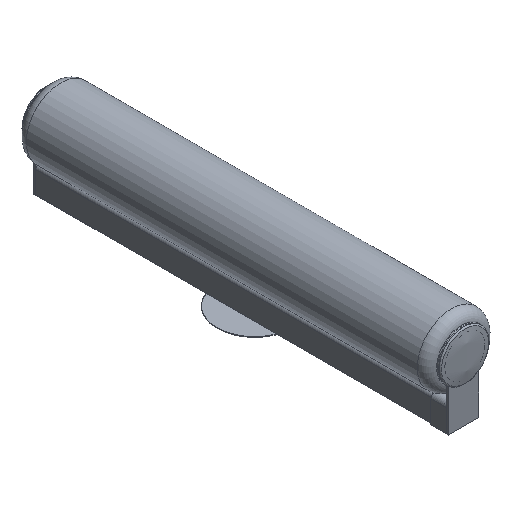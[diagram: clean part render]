
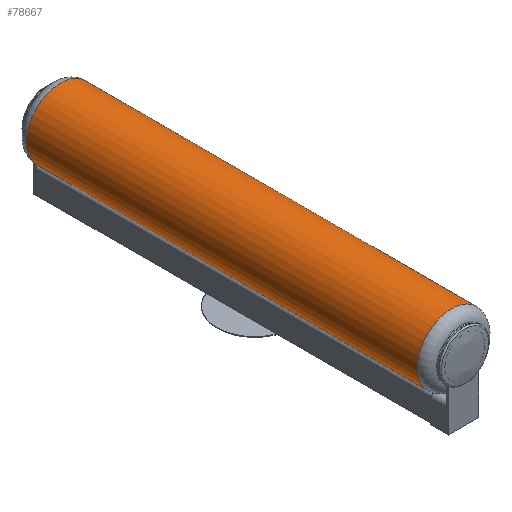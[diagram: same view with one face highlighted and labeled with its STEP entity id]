
A CAD part, isometric view. The second image highlights one B-rep face of the part: STEP entity #78667.
In plain terms, the highlighted cylindrical face has radius 50 mm (diameter 100 mm), a full revolution.
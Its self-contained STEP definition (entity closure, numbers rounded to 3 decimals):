
#13074=FACE_OUTER_BOUND('',#17448,.T.);
#17448=EDGE_LOOP('',(#73964,#73965,#73966,#73967,#73968,#73969));
#24920=LINE('',#138758,#32390);
#32390=VECTOR('',#103016,50.);
#34100=CIRCLE('',#84854,50.);
#34101=CIRCLE('',#84855,50.);
#34106=CIRCLE('',#84861,50.);
#34107=CIRCLE('',#84862,50.);
#41281=VERTEX_POINT('',#138721);
#41282=VERTEX_POINT('',#138722);
#41285=VERTEX_POINT('',#138731);
#41286=VERTEX_POINT('',#138733);
#52168=EDGE_CURVE('',#41281,#41282,#34100,.T.);
#52169=EDGE_CURVE('',#41282,#41281,#34101,.T.);
#52174=EDGE_CURVE('',#41285,#41286,#34106,.T.);
#52175=EDGE_CURVE('',#41286,#41285,#34107,.T.);
#52185=EDGE_CURVE('',#41286,#41281,#24920,.T.);
#73964=ORIENTED_EDGE('',*,*,#52175,.F.);
#73965=ORIENTED_EDGE('',*,*,#52185,.T.);
#73966=ORIENTED_EDGE('',*,*,#52168,.T.);
#73967=ORIENTED_EDGE('',*,*,#52169,.T.);
#73968=ORIENTED_EDGE('',*,*,#52185,.F.);
#73969=ORIENTED_EDGE('',*,*,#52174,.F.);
#74665=CYLINDRICAL_SURFACE('',#84876,50.);
#78667=ADVANCED_FACE('',(#13074),#74665,.T.);
#84854=AXIS2_PLACEMENT_3D('',#138723,#102968,#102969);
#84855=AXIS2_PLACEMENT_3D('',#138724,#102970,#102971);
#84861=AXIS2_PLACEMENT_3D('',#138734,#102982,#102983);
#84862=AXIS2_PLACEMENT_3D('',#138735,#102984,#102985);
#84876=AXIS2_PLACEMENT_3D('',#138757,#103014,#103015);
#102968=DIRECTION('center_axis',(1.,0.,0.));
#102969=DIRECTION('ref_axis',(0.,0.,-1.));
#102970=DIRECTION('center_axis',(1.,0.,0.));
#102971=DIRECTION('ref_axis',(0.,0.,-1.));
#102982=DIRECTION('center_axis',(1.,0.,0.));
#102983=DIRECTION('ref_axis',(0.,0.,-1.));
#102984=DIRECTION('center_axis',(1.,0.,0.));
#102985=DIRECTION('ref_axis',(0.,0.,-1.));
#103014=DIRECTION('center_axis',(1.,0.,0.));
#103015=DIRECTION('ref_axis',(0.,1.,0.));
#103016=DIRECTION('',(-1.,0.,0.));
#138721=CARTESIAN_POINT('',(15.,-50.,0.));
#138722=CARTESIAN_POINT('',(15.,0.,50.));
#138723=CARTESIAN_POINT('Origin',(15.,0.,0.));
#138724=CARTESIAN_POINT('Origin',(15.,0.,0.));
#138731=CARTESIAN_POINT('',(585.,0.,50.));
#138733=CARTESIAN_POINT('',(585.,-50.,0.));
#138734=CARTESIAN_POINT('Origin',(585.,0.,0.));
#138735=CARTESIAN_POINT('Origin',(585.,0.,0.));
#138757=CARTESIAN_POINT('Origin',(300.,0.,0.));
#138758=CARTESIAN_POINT('',(300.,-50.,0.));
